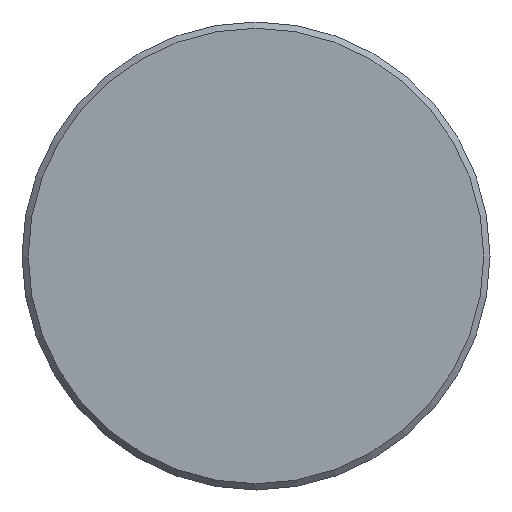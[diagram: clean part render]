
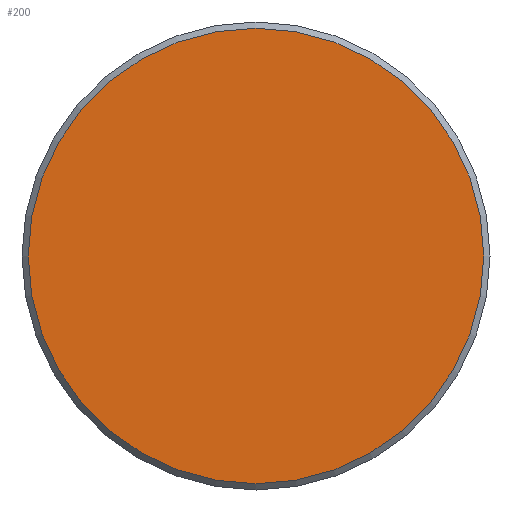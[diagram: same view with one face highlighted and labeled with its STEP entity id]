
A CAD part, front view. The second image highlights one B-rep face of the part: STEP entity #200.
In plain terms, the highlighted planar face has unit normal (0, -1, 0).
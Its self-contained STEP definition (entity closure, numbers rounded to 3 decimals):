
#200 = ADVANCED_FACE( '', ( #393 ), #394, .F. );
#393 = FACE_OUTER_BOUND( '', #589, .T. );
#394 = PLANE( '', #590 );
#589 = EDGE_LOOP( '', ( #894 ) );
#590 = AXIS2_PLACEMENT_3D( '', #895, #896, #897 );
#894 = ORIENTED_EDGE( '', *, *, #1152, .T. );
#895 = CARTESIAN_POINT( '', ( 29.2, 0., 0. ) );
#896 = DIRECTION( '', ( 0., 1., 0. ) );
#897 = DIRECTION( '', ( 0., 0., 1. ) );
#1152 = EDGE_CURVE( '', #1345, #1345, #1346, .T. );
#1345 = VERTEX_POINT( '', #1697 );
#1346 = CIRCLE( '', #1698, 29.2 );
#1697 = CARTESIAN_POINT( '', ( 0., 0., -29.2 ) );
#1698 = AXIS2_PLACEMENT_3D( '', #2013, #2014, #2015 );
#2013 = CARTESIAN_POINT( '', ( 0., 0., 0. ) );
#2014 = DIRECTION( '', ( 0., -1., 0. ) );
#2015 = DIRECTION( '', ( 0., 0., -1. ) );
